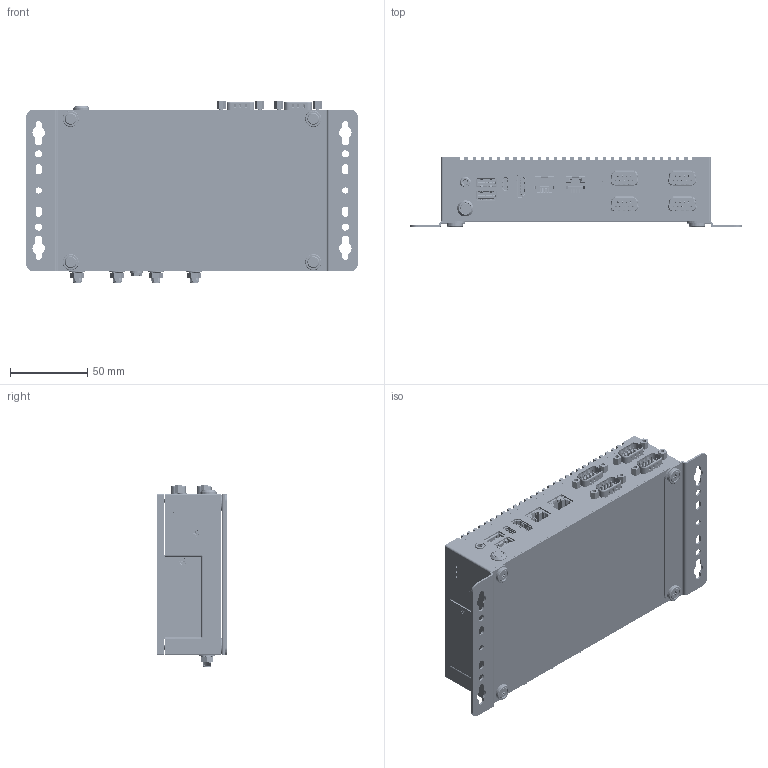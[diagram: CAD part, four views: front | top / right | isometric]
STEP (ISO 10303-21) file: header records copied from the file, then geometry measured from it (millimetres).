
FILE_DESCRIPTION((''),'2;1');
FILE_NAME('00-TINKER-SYS-3N-ME_ASM_5_ASM_1_ASM','2024-09-11T',('Jackie4_Wang'),(''),'CREO PARAMETRIC BY PTC INC, 2017300','CREO PARAMETRIC BY PTC INC, 2017300','');
FILE_SCHEMA(('CONFIG_CONTROL_DESIGN'));
Products named in the file (90): AUDIO-JACK-1_1_1_1_1_1_1_1; _2SJ3082-051111F-3D_ASM_1_1_1_1; 12014-00146400-AUDIO-JACK-6P_AS_ASM; 12013-00176900-USB3P1-CON-24P_1; 12014-00810600-LAN-JACK-18P_1_1; 12014-00356300-LAN-JACK-14P_1_1; NONE-59808_1_1_1_1_1_1; NONE-59956_1_1_1_1_1_1; NONE-59983_1_1_1_1_1_1; NONE-60062_1_1_1_1_1_1; NONE-60131_1_1_1_1_1_1; NONE-60382_1_1_1_1_1_1; NONE-60500_1_1_1_1_1_1; NONE-60635_1_1_1_1_1_1; NONE-60838_1_1_1_1_1_1; NONE-62890_1_1_1_1_1_1; NONE-62963_1_1_1_1_1_1; MSBR-1__W___ASM_1_ASM_1_ASM_1_A_ASM; 12013-00122000-USB30-2X4P_ASM_1_ASM; SINK_UPRIGHT_HDMI_IM1_ANY_4_1_1; SINK_UPRIGHT_HDMI_IM1_ANY_ASM_1_ASM; SINK_UPRIGHT_HDMI_SHELL_ANY_1_1; SINK_UPRIGHT_HDMI_20140218_ANY__ASM; 12022-00046100-HDMI-CON-19P_ASM_ASM; COM_PORT_CABLE_HEAD_1_1_1_1_1_1; SCREW_COM_PORT_1_1_1_1_1_1; PE200ALL_COM-02_ASSY_ASM_1_ASM__ASM; PE200ALL_MSBR-6_1_1_1_1_1_1_1_1; PE200ALL_MSBR-8_1_1_1_1_1_1_1_1; PE200ALL_MSBR-7_1_11_1_1_1_1_1_; ANT_ASM_1_ASM_1_ASM_1_ASM_1_ASM_ASM; BUTTON_5_1_1_1_1_1_1; BUTTON_5_2_1_1_1_1_1; BUTTON_5_ASM_1_ASM_1_ASM_1_ASM__ASM; 00_1-1436_1_1_1_1_1_1; 1200_1_1_1_1_1_1_1; 00_1-10835_1_1_1_1_1_1; _0001_1_1_1_1_1_1_1; 00_1-20793_1_1_1_1_1_1; _CHENGPIN00_1_1_1_1_1_1_1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
Assembly tree (118 placements, depth 6):
  00-TINKER-SYS-3N-ME_ASM_5_ASM_1_ASM
    TINKER-SYSTEM-3N-MB-PCB_ASM_6_A_ASM
      12014-00146400-AUDIO-JACK-6P_AS_ASM
        AUDIO-JACK-1_1_1_1_1_1_1_1
        _2SJ3082-051111F-3D_ASM_1_1_1_1
      12013-00176900-USB3P1-CON-24P_1
      12014-00810600-LAN-JACK-18P_1_1
      12014-00356300-LAN-JACK-14P_1_1
      12013-00122000-USB30-2X4P_ASM_1_ASM
        MSBR-1__W___ASM_1_ASM_1_ASM_1_A_ASM
          NONE-59808_1_1_1_1_1_1
          NONE-59956_1_1_1_1_1_1
          NONE-59983_1_1_1_1_1_1
          NONE-60062_1_1_1_1_1_1
          NONE-60131_1_1_1_1_1_1
          NONE-60382_1_1_1_1_1_1
          NONE-60500_1_1_1_1_1_1
          NONE-60635_1_1_1_1_1_1
          NONE-60838_1_1_1_1_1_1
          NONE-62890_1_1_1_1_1_1
          NONE-62963_1_1_1_1_1_1
      12022-00046100-HDMI-CON-19P_ASM_ASM
        SINK_UPRIGHT_HDMI_20140218_ANY__ASM
          SINK_UPRIGHT_HDMI_IM1_ANY_ASM_1_ASM
            SINK_UPRIGHT_HDMI_IM1_ANY_4_1_1
          SINK_UPRIGHT_HDMI_SHELL_ANY_1_1
      PE200ALL_COM-02_ASSY_ASM_1_ASM__ASM  x4
        COM_PORT_CABLE_HEAD_1_1_1_1_1_1
        SCREW_COM_PORT_1_1_1_1_1_1
      ANT_ASM_1_ASM_1_ASM_1_ASM_1_ASM_ASM  x4
        PE200ALL_MSBR-6_1_1_1_1_1_1_1_1
        PE200ALL_MSBR-8_1_1_1_1_1_1_1_1
        PE200ALL_MSBR-7_1_11_1_1_1_1_1_
      BUTTON_5_ASM_1_ASM_1_ASM_1_ASM__ASM
        BUTTON_5_1_1_1_1_1_1
        BUTTON_5_2_1_1_1_1_1
      12033-00011000-DC-POWER-JACK-2P_ASM
        DJ-D220_ASM_1_ASM_1_ASM_1_ASM_1_ASM
          LM-DC-D020_ASM_1_ASM_1_ASM_1_AS_ASM
            00_1-1436_1_1_1_1_1_1
            1200_1_1_1_1_1_1_1
            00_1-10835_1_1_1_1_1_1
            _0001_1_1_1_1_1_1_1
            00_1-20793_1_1_1_1_1_1
            _CHENGPIN00_1_1_1_1_1_1_1
      TINKER-RK3568-MB-PCB
      12023-00030600-NANOSIM-CON-7P_ASM
        PATTERN-361360_ASM
          PATTERN_2_1_1_1_1_1_1_1
          PATTERN_2_1_1
          PATTERN_2_2_1_1_1_1_1_1
          PATTERN_2_2_1_1_1_1_1
          PATTERN_2_2_1_1_1_1
          PATTERN_2_2_1_1_1
          PATTERN_2_2_1_1
          PATTERN_2_2_1
          PATTERN_2_2
          PATTERN_2_1
          PATTERN_2
          PATTERN_1_1_1
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Bounding box: 215.4 x 45.73 x 118.05 mm (x, y, z)
Volume: 155150.4 mm3; surface area: 219605.3 mm2
Topology: 112 solids, 177 shells, 21942 faces, 64936 edges, 42815 vertices
Faces by surface type: plane 12982, cylinder 6414, bspline 1055, torus 542, cone 492, sphere 248, extrusion 209
Entity records: 635502 total; most frequent: CARTESIAN_POINT 170402, ORIENTED_EDGE 101232, DIRECTION 91696, EDGE_CURVE 50680, VECTOR 35936, LINE 35781, VERTEX_POINT 33285, AXIS2_PLACEMENT_3D 27880
